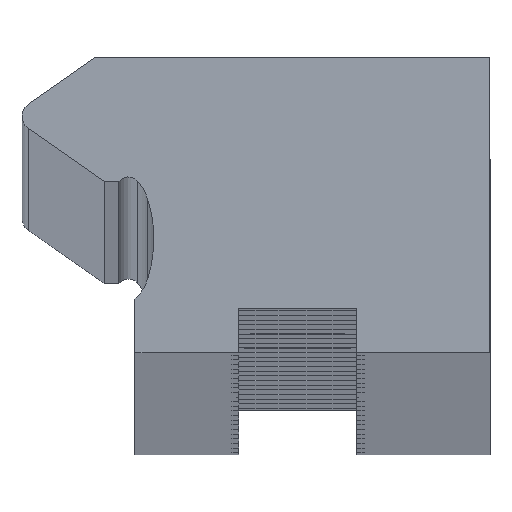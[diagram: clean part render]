
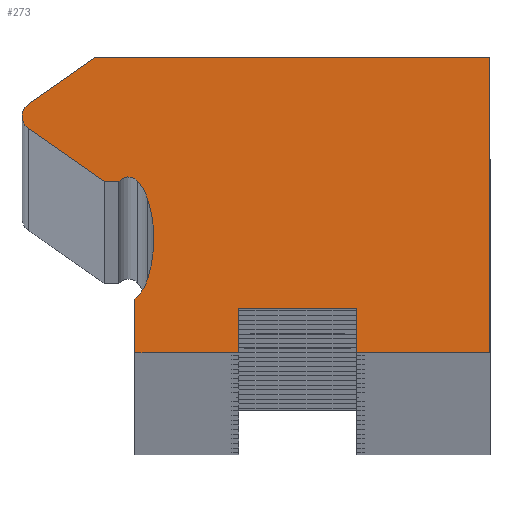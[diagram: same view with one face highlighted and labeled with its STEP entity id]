
A CAD part, top view. The second image highlights one B-rep face of the part: STEP entity #273.
In plain terms, the highlighted planar face has unit normal (0, 0, 1).
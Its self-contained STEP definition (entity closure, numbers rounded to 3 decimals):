
#273=ADVANCED_FACE('',(#715),#716,.F.);
#715=FACE_OUTER_BOUND('',#1157,.T.);
#716=PLANE('',#1158);
#1157=EDGE_LOOP('',(#2914,#2915,#2916,#2917,#2918,#2919,#2920,#2921,#2922,#2923,#2924,#2925,#2926,#2927,#2928,#2929,#2930,#2931,#2932,#2933,#2934));
#1158=AXIS2_PLACEMENT_3D('',#2935,#2936,#2937);
#2914=ORIENTED_EDGE('',*,*,#3528,.F.);
#2915=ORIENTED_EDGE('',*,*,#3485,.F.);
#2916=ORIENTED_EDGE('',*,*,#3267,.F.);
#2917=ORIENTED_EDGE('',*,*,#3489,.F.);
#2918=ORIENTED_EDGE('',*,*,#3492,.F.);
#2919=ORIENTED_EDGE('',*,*,#3494,.F.);
#2920=ORIENTED_EDGE('',*,*,#2947,.F.);
#2921=ORIENTED_EDGE('',*,*,#3497,.F.);
#2922=ORIENTED_EDGE('',*,*,#3500,.F.);
#2923=ORIENTED_EDGE('',*,*,#3503,.F.);
#2924=ORIENTED_EDGE('',*,*,#3506,.T.);
#2925=ORIENTED_EDGE('',*,*,#3509,.T.);
#2926=ORIENTED_EDGE('',*,*,#3512,.T.);
#2927=ORIENTED_EDGE('',*,*,#3513,.T.);
#2928=ORIENTED_EDGE('',*,*,#2945,.T.);
#2929=ORIENTED_EDGE('',*,*,#3515,.T.);
#2930=ORIENTED_EDGE('',*,*,#2941,.T.);
#2931=ORIENTED_EDGE('',*,*,#3519,.T.);
#2932=ORIENTED_EDGE('',*,*,#3522,.F.);
#2933=ORIENTED_EDGE('',*,*,#3524,.F.);
#2934=ORIENTED_EDGE('',*,*,#3527,.F.);
#2935=CARTESIAN_POINT('',(-0.485,5.157,1976.0));
#2936=DIRECTION('',(0.,0.0,-1.0));
#2937=DIRECTION('',(-1.0,0.0,0.));
#2941=EDGE_CURVE('',#3530,#3534,#3536,.T.);
#2945=EDGE_CURVE('',#3538,#3542,#3544,.T.);
#2947=EDGE_CURVE('',#3545,#3548,#3549,.T.);
#3267=EDGE_CURVE('',#4160,#4162,#4163,.T.);
#3485=EDGE_CURVE('',#4162,#4447,#4448,.T.);
#3489=EDGE_CURVE('',#4452,#4160,#4454,.T.);
#3492=EDGE_CURVE('',#4457,#4452,#4459,.T.);
#3494=EDGE_CURVE('',#3548,#4457,#4461,.T.);
#3497=EDGE_CURVE('',#4464,#3545,#4466,.T.);
#3500=EDGE_CURVE('',#4469,#4464,#4471,.T.);
#3503=EDGE_CURVE('',#4474,#4469,#4476,.T.);
#3506=EDGE_CURVE('',#4474,#4479,#4481,.T.);
#3509=EDGE_CURVE('',#4479,#4484,#4486,.T.);
#3512=EDGE_CURVE('',#4484,#4489,#4491,.T.);
#3513=EDGE_CURVE('',#4489,#3538,#4492,.T.);
#3515=EDGE_CURVE('',#3542,#3530,#4494,.T.);
#3519=EDGE_CURVE('',#3534,#4498,#4500,.T.);
#3522=EDGE_CURVE('',#4503,#4498,#4505,.T.);
#3524=EDGE_CURVE('',#4506,#4503,#4508,.T.);
#3527=EDGE_CURVE('',#4510,#4506,#4512,.T.);
#3528=EDGE_CURVE('',#4447,#4510,#4513,.T.);
#3530=VERTEX_POINT('',#4515);
#3534=VERTEX_POINT('',#4520);
#3536=CIRCLE('',#4523,4.478);
#3538=VERTEX_POINT('',#4525);
#3542=VERTEX_POINT('',#4530);
#3544=CIRCLE('',#4533,3.953);
#3545=VERTEX_POINT('',#4534);
#3548=VERTEX_POINT('',#4538);
#3549=CIRCLE('',#4539,0.5);
#4160=VERTEX_POINT('',#5308);
#4162=VERTEX_POINT('',#5311);
#4163=LINE('',#5312,#5313);
#4447=VERTEX_POINT('',#5709);
#4448=LINE('',#5710,#5711);
#4452=VERTEX_POINT('',#5717);
#4454=LINE('',#5720,#5721);
#4457=VERTEX_POINT('',#5725);
#4459=LINE('',#5728,#5729);
#4461=LINE('',#5732,#5733);
#4464=VERTEX_POINT('',#5736);
#4466=CIRCLE('',#5739,0.5);
#4469=VERTEX_POINT('',#5743);
#4471=LINE('',#5746,#5747);
#4474=VERTEX_POINT('',#5751);
#4476=LINE('',#5754,#5755);
#4479=VERTEX_POINT('',#5758);
#4481=CIRCLE('',#5761,0.49);
#4484=VERTEX_POINT('',#5764);
#4486=CIRCLE('',#5767,0.434);
#4489=VERTEX_POINT('',#5770);
#4491=CIRCLE('',#5773,1.495);
#4492=CIRCLE('',#5774,3.953);
#4494=CIRCLE('',#5776,4.478);
#4498=VERTEX_POINT('',#5780);
#4500=CIRCLE('',#5783,1.456);
#4503=VERTEX_POINT('',#5787);
#4505=LINE('',#5790,#5791);
#4506=VERTEX_POINT('',#5792);
#4508=LINE('',#5795,#5796);
#4510=VERTEX_POINT('',#5799);
#4512=LINE('',#5802,#5803);
#4513=LINE('',#5804,#5805);
#4515=CARTESIAN_POINT('',(-4.869,3.822,1976.0));
#4520=CARTESIAN_POINT('',(-5.066,2.508,1976.0));
#4523=AXIS2_PLACEMENT_3D('',#5811,#5812,#5813);
#4525=CARTESIAN_POINT('',(-4.871,3.963,1976.0));
#4530=CARTESIAN_POINT('',(-4.871,3.942,1976.0));
#4533=AXIS2_PLACEMENT_3D('',#5819,#5820,#5821);
#4534=CARTESIAN_POINT('',(-9.318,8.0,1976.0));
#4538=CARTESIAN_POINT('',(-9.105,8.41,1976.0));
#4539=AXIS2_PLACEMENT_3D('',#5823,#5824,#5825);
#5308=CARTESIAN_POINT('',(6.5,0.0,1976.0));
#5311=CARTESIAN_POINT('',(2.,0.0,1976.0));
#5312=CARTESIAN_POINT('',(6.5,0.0,1976.0));
#5313=VECTOR('',#6465,1.0);
#5709=CARTESIAN_POINT('',(2.,1.5,1976.0));
#5710=CARTESIAN_POINT('',(2.,0.0,1976.0));
#5711=VECTOR('',#6893,1.0);
#5717=CARTESIAN_POINT('',(6.5,10.0,1976.0));
#5720=CARTESIAN_POINT('',(6.5,10.0,1976.0));
#5721=VECTOR('',#6897,1.0);
#5725=CARTESIAN_POINT('',(-6.834,10.0,1976.0));
#5728=CARTESIAN_POINT('',(-6.834,10.0,1976.0));
#5729=VECTOR('',#6900,1.0);
#5732=CARTESIAN_POINT('',(-9.105,8.41,1976.0));
#5733=VECTOR('',#6902,1.0);
#5736=CARTESIAN_POINT('',(-9.105,7.59,1976.0));
#5739=AXIS2_PLACEMENT_3D('',#6907,#6908,#6909);
#5743=CARTESIAN_POINT('',(-6.534,5.79,1976.0));
#5746=CARTESIAN_POINT('',(-6.534,5.79,1976.0));
#5747=VECTOR('',#6912,1.0);
#5751=CARTESIAN_POINT('',(-6.045,5.79,1976.0));
#5754=CARTESIAN_POINT('',(-6.045,5.79,1976.0));
#5755=VECTOR('',#6915,1.0);
#5758=CARTESIAN_POINT('',(-5.745,5.949,1976.0));
#5761=AXIS2_PLACEMENT_3D('',#6920,#6921,#6922);
#5764=CARTESIAN_POINT('',(-5.406,5.802,1976.0));
#5767=AXIS2_PLACEMENT_3D('',#6927,#6928,#6929);
#5770=CARTESIAN_POINT('',(-5.081,5.235,1976.0));
#5773=AXIS2_PLACEMENT_3D('',#6934,#6935,#6936);
#5774=AXIS2_PLACEMENT_3D('',#6937,#6938,#6939);
#5776=AXIS2_PLACEMENT_3D('',#6943,#6944,#6945);
#5780=CARTESIAN_POINT('',(-5.5,1.822,1976.0));
#5783=AXIS2_PLACEMENT_3D('',#6953,#6954,#6955);
#5787=CARTESIAN_POINT('',(-5.5,0.0,1976.0));
#5790=CARTESIAN_POINT('',(-5.5,0.0,1976.0));
#5791=VECTOR('',#6958,1.0);
#5792=CARTESIAN_POINT('',(-2.,0.0,1976.0));
#5795=CARTESIAN_POINT('',(-2.,0.0,1976.0));
#5796=VECTOR('',#6960,1.0);
#5799=CARTESIAN_POINT('',(-2.,1.5,1976.0));
#5802=CARTESIAN_POINT('',(-2.,1.5,1976.0));
#5803=VECTOR('',#6963,1.0);
#5804=CARTESIAN_POINT('',(2.,1.5,1976.0));
#5805=VECTOR('',#6964,1.0);
#5811=CARTESIAN_POINT('',(-9.347,3.822,1976.0));
#5812=DIRECTION('',(0.,0.0,-1.0));
#5813=DIRECTION('',(-1.0,0.0,0.));
#5819=CARTESIAN_POINT('',(-8.824,3.963,1976.0));
#5820=DIRECTION('',(0.,0.0,-1.0));
#5821=DIRECTION('',(-1.0,0.0,0.));
#5823=CARTESIAN_POINT('',(-8.818,8.0,1976.0));
#5824=DIRECTION('',(0.,0.0,-1.0));
#5825=DIRECTION('',(-1.0,0.0,0.));
#6465=DIRECTION('',(-1.0,0.0,0.));
#6893=DIRECTION('',(0.0,1.0,0.0));
#6897=DIRECTION('',(0.0,-1.0,-0.0));
#6900=DIRECTION('',(1.0,0.0,0.));
#6902=DIRECTION('',(0.819,0.574,0.));
#6907=CARTESIAN_POINT('',(-8.818,8.0,1976.0));
#6908=DIRECTION('',(0.,0.0,-1.0));
#6909=DIRECTION('',(-1.0,0.0,0.));
#6912=DIRECTION('',(-0.819,0.574,0.));
#6915=DIRECTION('',(-1.0,0.0,0.));
#6920=CARTESIAN_POINT('',(-5.68,5.463,1976.0));
#6921=DIRECTION('',(0.,0.0,-1.0));
#6922=DIRECTION('',(-1.0,0.0,0.));
#6927=CARTESIAN_POINT('',(-5.732,5.515,1976.0));
#6928=DIRECTION('',(0.,0.0,-1.0));
#6929=DIRECTION('',(-1.0,0.0,0.));
#6934=CARTESIAN_POINT('',(-6.509,4.793,1976.0));
#6935=DIRECTION('',(0.,0.0,-1.0));
#6936=DIRECTION('',(-1.0,0.0,0.));
#6937=CARTESIAN_POINT('',(-8.824,3.963,1976.0));
#6938=DIRECTION('',(0.,0.0,-1.0));
#6939=DIRECTION('',(-1.0,0.0,0.));
#6943=CARTESIAN_POINT('',(-9.347,3.822,1976.0));
#6944=DIRECTION('',(0.,0.0,-1.0));
#6945=DIRECTION('',(-1.0,0.0,0.));
#6953=CARTESIAN_POINT('',(-6.465,2.912,1976.0));
#6954=DIRECTION('',(0.,0.0,-1.0));
#6955=DIRECTION('',(-1.0,0.0,0.));
#6958=DIRECTION('',(0.0,1.0,0.0));
#6960=DIRECTION('',(-1.0,0.0,0.));
#6963=DIRECTION('',(0.0,-1.0,-0.0));
#6964=DIRECTION('',(-1.0,0.0,0.));
